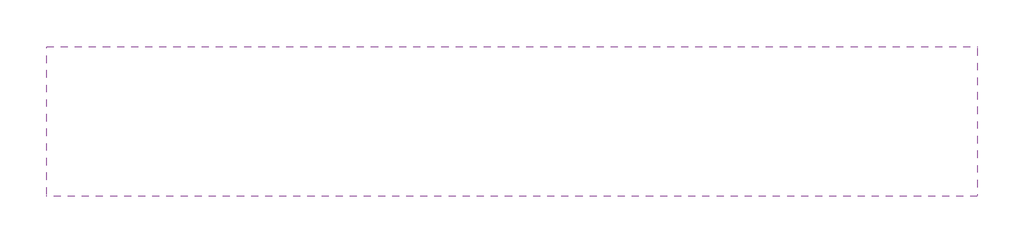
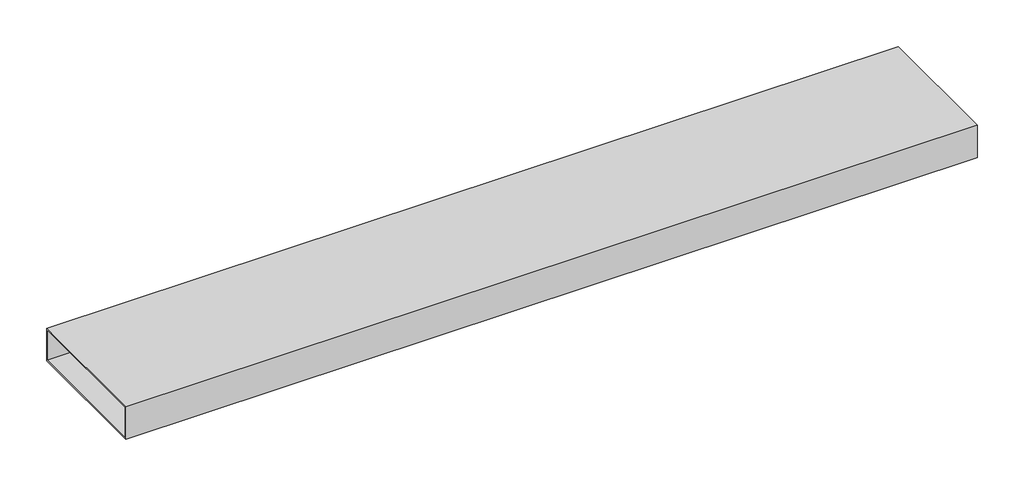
# One storey: 1 proxy.
"""IFC4 building model written with IfcOpenShell, lengths in millimetres."""

from ifc_helpers import new_model, si_unit, origin, place, context, project, spatial, transform, mapped, element, save
from components import generic_models_6bd67163

model = new_model("IFC4")

# Units and contexts
model_context = context("Model", 3, world=origin())
ifc_project = project(units=[si_unit("LENGTHUNIT", "METRE", prefix="MILLI")], contexts=[model_context])

# Site, building, storey
site = spatial("IfcSite", under=ifc_project)
building = spatial("IfcBuilding", under=site)
storey = spatial("IfcBuildingStorey", under=building, Name="Уровень 2", Elevation=4000.0)

# Proxy
placement = place(None, origin())
generic_models_shape = generic_models_6bd67163(model_context)
element("IfcBuildingElementProxy", 1, Name="Семейство21 : Семейство21", ObjectType="Семейство21 : Семейство21", at=placement, inside=storey, context=model_context, shape_type="MappedRepresentation", body=[
    mapped(generic_models_shape, transform((-20832.3187065, 8234.6601583, 6737.1786467), x_axis=(1.0, 0.0, 0.0), y_axis=(0.0, 0.0, 1.0), z_axis=(0.0, -1.0, 0.0))),
])

save(model, "model.ifc")
